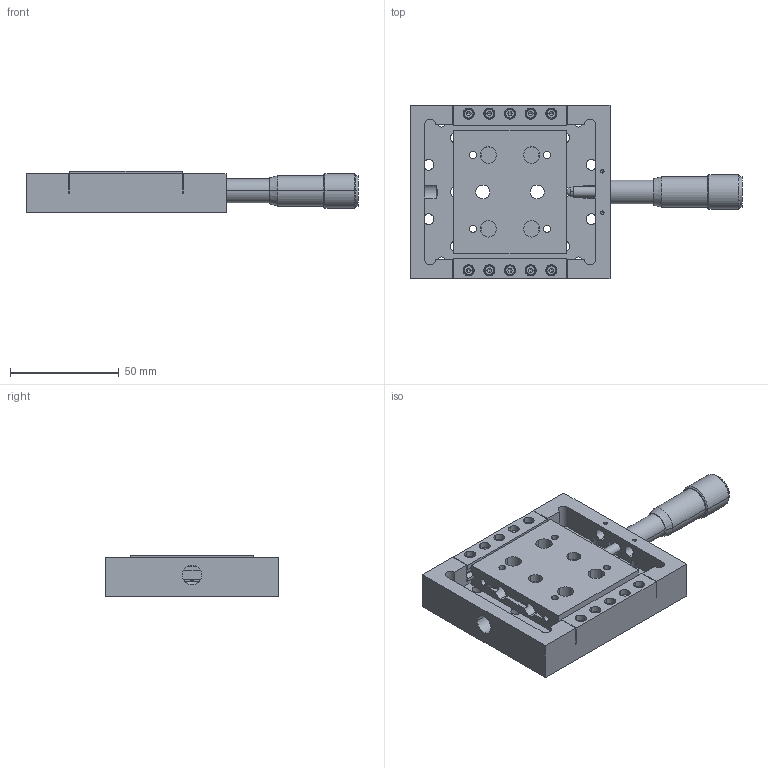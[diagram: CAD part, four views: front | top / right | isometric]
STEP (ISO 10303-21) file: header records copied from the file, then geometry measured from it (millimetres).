
FILE_DESCRIPTION (( 'STEP AP203' ), '1' );
FILE_NAME ('7T67-25.STEP', '2007-04-11T11:35:00', ( 'STANDA' ), ( '' ), 'SwSTEP 2.0', 'SolidWorks 2003240', '' );
FILE_SCHEMA (( 'CONFIG_CONTROL_DESIGN' ));
Length unit declared in the file: millimetre
Products named in the file (1): 7T67-25
Bounding box: 152.72 x 80 x 19 mm (x, y, z)
Volume: 102283.1 mm3; surface area: 48110.6 mm2
Topology: 1 solids, 16 shells, 683 faces, 1797 edges, 1157 vertices
Faces by surface type: cylinder 250, plane 249, bspline 97, cone 87
Entity records: 23695 total; most frequent: CARTESIAN_POINT 7036, ORIENTED_EDGE 3506, DIRECTION 3286, EDGE_CURVE 1753, AXIS2_PLACEMENT_3D 1215, VERTEX_POINT 1157, LINE 856, VECTOR 856
